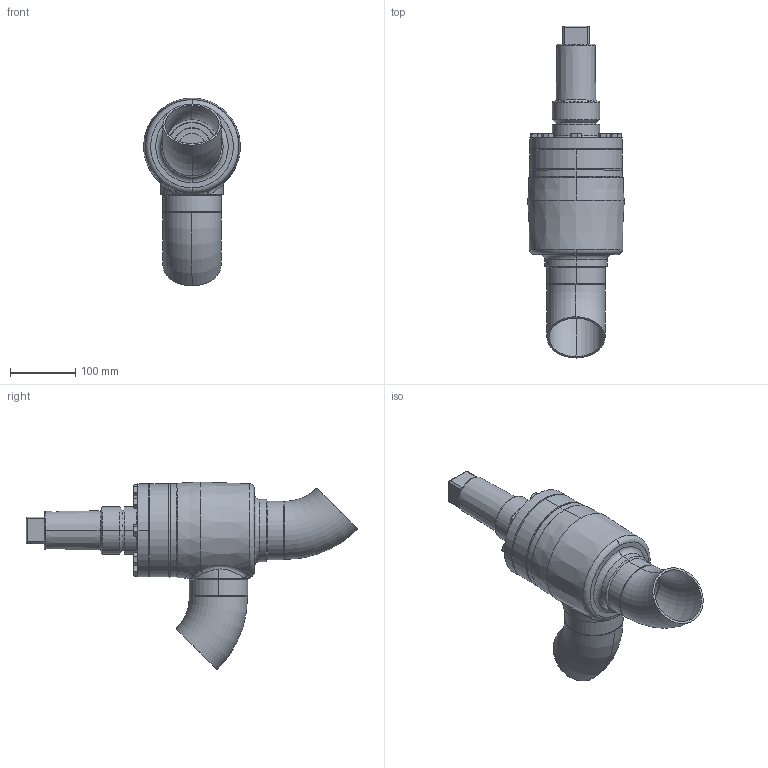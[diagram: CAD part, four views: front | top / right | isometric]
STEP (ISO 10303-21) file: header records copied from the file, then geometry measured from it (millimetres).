
FILE_DESCRIPTION (( 'STEP AP214' ), '1' );
FILE_NAME ('HRAB12300D18-DN080_R1_PS40.STEP', '2007-01-08T07:23:28', ( 'Herr Grams' ), ( 'AWP GmbH' ), 'SwSTEP 2.0', 'SolidWorks 2002296', '' );
FILE_SCHEMA (( 'AUTOMOTIVE_DESIGN' ));
Length unit declared in the file: millimetre
Products named in the file (13): HRAB12300D18-DN080_R1_PS40; Gehäuse-kpl16300-DN080_R1_Standard; Gehäuse-kpl16400-DN080_R1_Standard; Gehäuse16400-DN080_Standard; bead-DN080-1_Standard; Kopfstück16300-DN080_Standard; Rohrbogen 45°_Rohrbogen-DN080-45°; bead-DN080-2_Standard; bead-DN080-3_Standard; AVB16300E18_Deck+Schr-DN80_Standard; Deckel16300E18-DN80_Standard; Sechskantschraube-DIN933_M10x 30; Kappe16402_DN080-100_Standard
Assembly tree (20 placements, depth 4):
  HRAB12300D18-DN080_R1_PS40
    Gehäuse-kpl16300-DN080_R1_Standard
      Rohrbogen 45°_Rohrbogen-DN080-45°  x2
      bead-DN080-2_Standard
      bead-DN080-3_Standard
      Gehäuse-kpl16400-DN080_R1_Standard
        Gehäuse16400-DN080_Standard
        bead-DN080-1_Standard
        Kopfstück16300-DN080_Standard
    AVB16300E18_Deck+Schr-DN80_Standard
      Sechskantschraube-DIN933_M10x 30  x8
      Deckel16300E18-DN80_Standard
    Kappe16402_DN080-100_Standard
Bounding box: 147.49 x 507.04 x 286.93 mm (x, y, z)
Volume: 2097071.4 mm3; surface area: 456367.9 mm2
Topology: 17 solids, 17 shells, 387 faces, 826 edges, 499 vertices
Faces by surface type: cone 133, plane 114, cylinder 100, torus 20, bspline 20
Entity records: 18498 total; most frequent: CARTESIAN_POINT 13066, DIRECTION 1009, ORIENTED_EDGE 900, EDGE_CURVE 450, AXIS2_PLACEMENT_3D 443, VERTEX_POINT 281, EDGE_LOOP 255, CIRCLE 231
